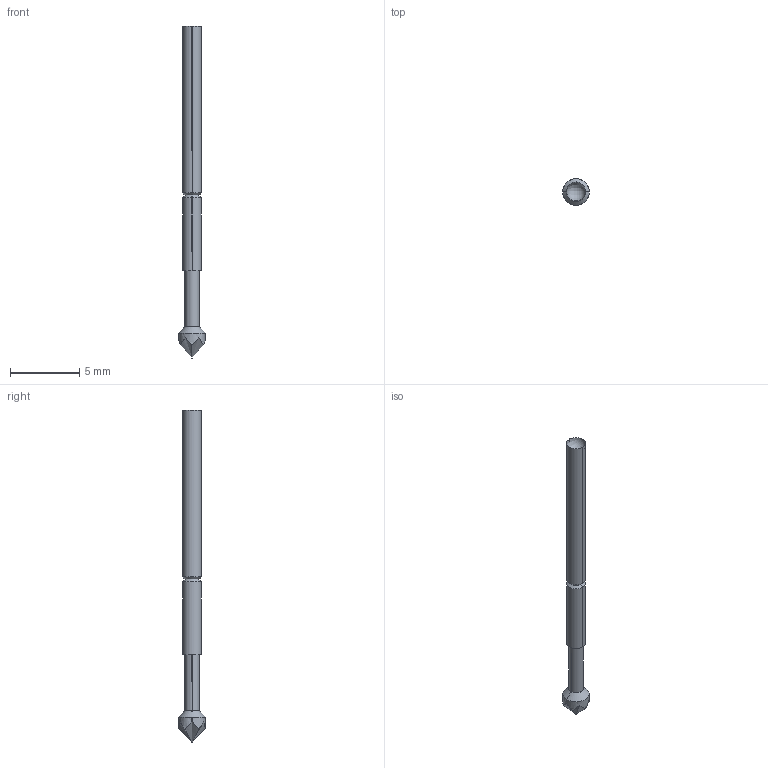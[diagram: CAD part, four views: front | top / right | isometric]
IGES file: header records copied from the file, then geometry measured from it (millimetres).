
Start section: SolidWorks IGES file using analytic representation for surfaces
Global section: file name: \\CODA-VM-SBS\RedirectedFolders\georged\My Documents\CODA CAD FILES\GENERAL PURPOSE TEST PROBES\SHORT REACH TEST PROBES\PA3\PA3M.IGS; native system: SolidWorks 2024; preprocessor: SolidWorks 2024; author: GeorgeD; date: 240710.100649; units: millimetre
Bounding box: 1.91 x 1.91 x 23.95 mm (x, y, z)
Surface area: 104.8 mm2 (no closed solid volume)
Topology: 0 solids, 0 shells, 28 faces, 218 edges, 216 vertices
Faces by surface type: revolution 15, bspline 13
